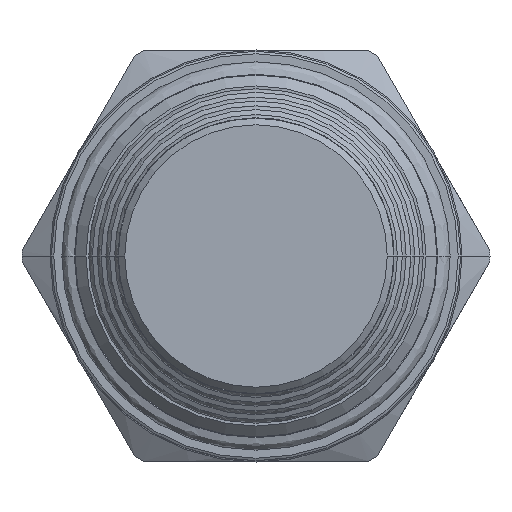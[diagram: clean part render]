
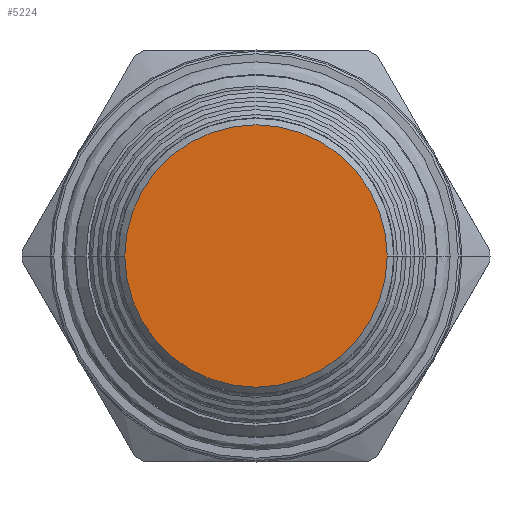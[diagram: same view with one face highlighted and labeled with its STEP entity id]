
A CAD part, front view. The second image highlights one B-rep face of the part: STEP entity #5224.
In plain terms, the highlighted planar face has unit normal (0, -1, 0).
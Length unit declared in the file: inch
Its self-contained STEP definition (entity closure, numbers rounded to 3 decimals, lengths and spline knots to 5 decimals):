
#2088=CARTESIAN_POINT('',(0.,-6.109,0.));
#2089=DIRECTION('',(0.,1.,0.));
#2090=DIRECTION('',(-1.,0.,0.));
#2091=AXIS2_PLACEMENT_3D('',#2088,#2089,#2090);
#2098=CARTESIAN_POINT('',(0.,-6.109,0.));
#2099=DIRECTION('',(0.,-1.,0.));
#2100=DIRECTION('',(-1.,0.,0.));
#2101=AXIS2_PLACEMENT_3D('',#2098,#2099,#2100);
#2403=CARTESIAN_POINT('',(-0.5985,-6.109,0.));
#2404=CARTESIAN_POINT('',(0.5985,-6.109,0.));
#2405=VERTEX_POINT('',#2403);
#2406=VERTEX_POINT('',#2404);
#5214=CARTESIAN_POINT('',(0.,-6.109,0.));
#5215=DIRECTION('',(0.,1.,0.));
#5216=DIRECTION('',(1.,0.,0.));
#5217=AXIS2_PLACEMENT_3D('',#5214,#5215,#5216);
#5218=PLANE('',#5217);
#5220=ORIENTED_EDGE('',*,*,#5219,.F.);
#5221=ORIENTED_EDGE('',*,*,#5204,.T.);
#5222=EDGE_LOOP('',(#5220,#5221));
#5223=FACE_OUTER_BOUND('',#5222,.F.);
#5224=ADVANCED_FACE('',(#5223),#5218,.F.);
#2092=CIRCLE('',#2091,0.5985);
#2102=CIRCLE('',#2101,0.5985);
#5204=EDGE_CURVE('',#2405,#2406,#2092,.T.);
#5219=EDGE_CURVE('',#2405,#2406,#2102,.T.);
